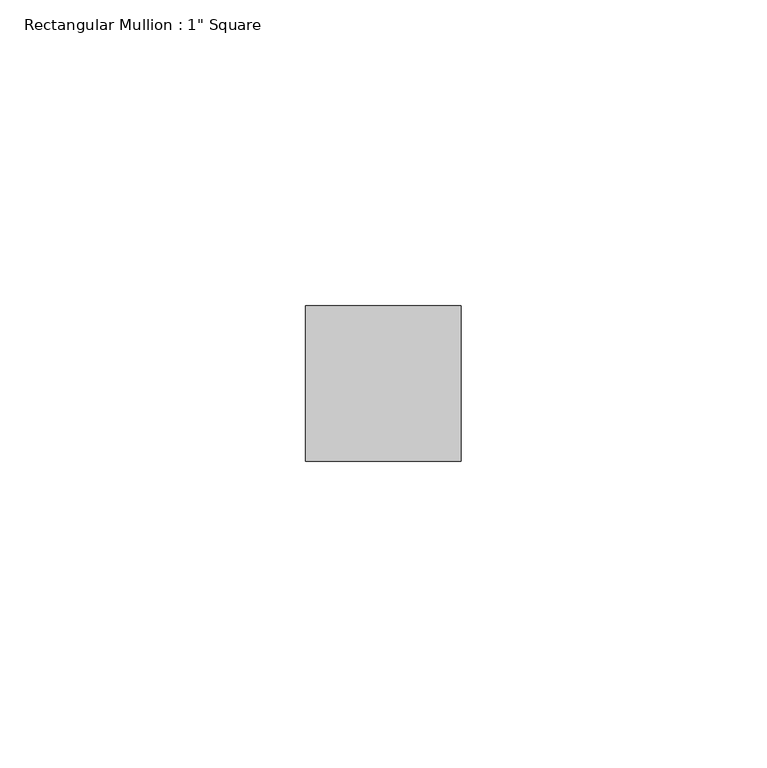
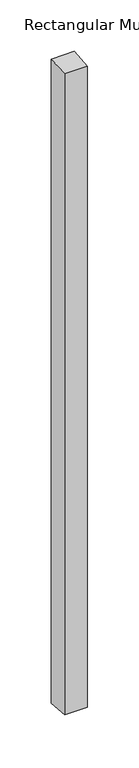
"""IFC4 building model written with IfcOpenShell, lengths in millimetres: member geometry."""

from ifc_helpers import new_model, si_unit, origin, place, context, project, spatial, faceted_brep, source, transform, mapped, element, save


def member_a4aff84e(model_context):
    return source(origin(), model_context, "Body", "Brep", [
        faceted_brep([(-25.4, 12.7, 0.9649253), (0.0, 12.7, 1.0609417), (0.0, 12.7, -763.0609417), (-25.4, 12.7, -762.9649253), (-25.4, -12.7, -1.1569581), (-25.4, -12.7, -760.8430419), (0.0, -12.7, -1.0609417), (0.0, -12.7, -760.9390583)], [[[0, 1, 2, 3]], [[4, 0, 3, 5]], [[6, 4, 5, 7]], [[1, 6, 7, 2]], [[1, 0, 4, 6]], [[2, 7, 5, 3]]]),
    ])


if __name__ == "__main__":
    model = new_model("IFC4")
    model_context = context("Model", 3, world=origin())
    ifc_project = project(units=[si_unit("LENGTHUNIT", "METRE", prefix="MILLI")], contexts=[model_context])
    site = spatial("IfcSite", under=ifc_project)
    building = spatial("IfcBuilding", under=site)
    placement = place(None, origin())
    member_shape = member_a4aff84e(model_context)
    element("IfcMember", 1, ObjectType="Rectangular Mullion : 1\" Square", at=placement, inside=building, context=model_context, shape_type="MappedRepresentation", body=[
        mapped(member_shape, transform((0.0, 0.0, 0.0), x_axis=(1.0, 0.0, 0.0), y_axis=(0.0, 1.0, 0.0), z_axis=(0.0, 0.0, 1.0))),
    ])
    save(model, "model.ifc")
